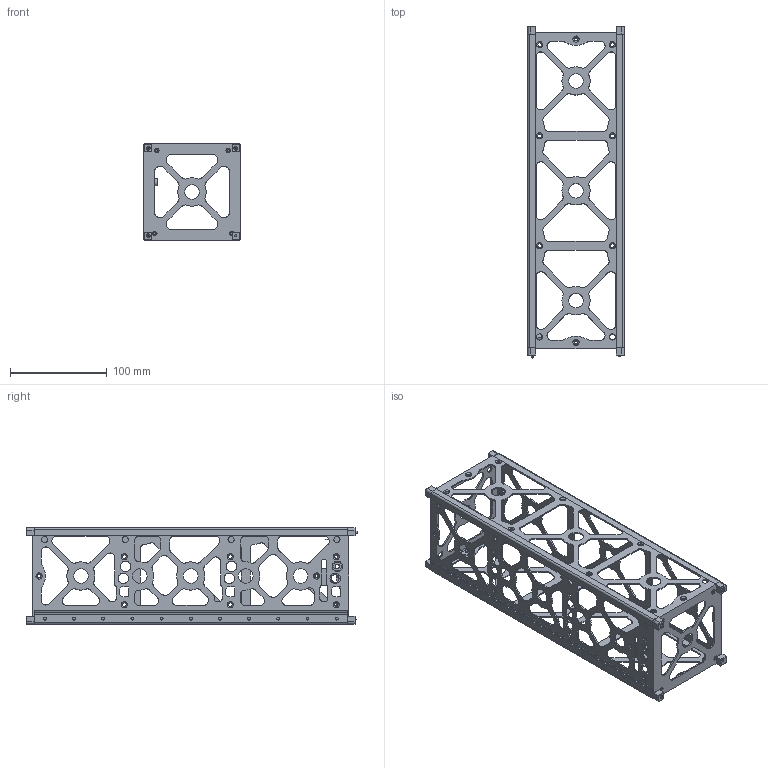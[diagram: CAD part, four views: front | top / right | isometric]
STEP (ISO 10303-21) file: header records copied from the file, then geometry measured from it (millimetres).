
FILE_DESCRIPTION (( 'STEP AP214' ), '1' );
FILE_NAME ('703-00292-E0 3U Chassis Skeleton.STEP', '2017-11-13T23:18:00', ( '' ), ( '' ), 'SwSTEP 2.0', 'SolidWorks 2014', '' );
FILE_SCHEMA (( 'AUTOMOTIVE_DESIGN' ));
Length unit declared in the file: inch
Products named in the file (2): 703-00292-E0 3U Chassis Skeleton
Bounding box: 100.05 x 343.05 x 100.05 mm (x, y, z)
Volume: 107216.8 mm3; surface area: 174170.7 mm2
Topology: 1 solids, 75 shells, 3065 faces, 7646 edges, 4690 vertices
Faces by surface type: cylinder 1207, plane 898, cone 878, bspline 44, torus 22, sphere 16
Entity records: 94208 total; most frequent: DIRECTION 17142, CARTESIAN_POINT 16423, ORIENTED_EDGE 15284, EDGE_CURVE 7642, AXIS2_PLACEMENT_3D 6561, VERTEX_POINT 4690, VECTOR 4020, LINE 4020
